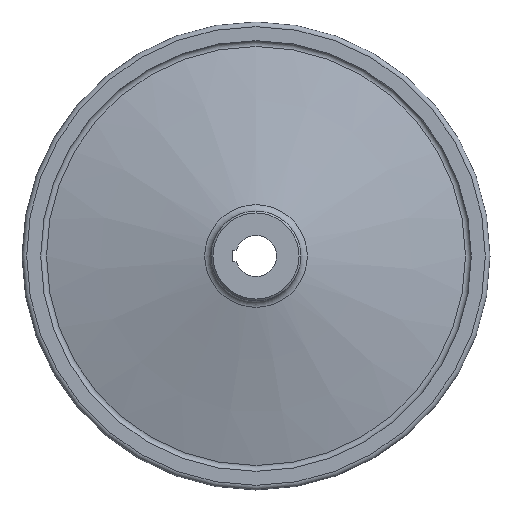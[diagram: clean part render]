
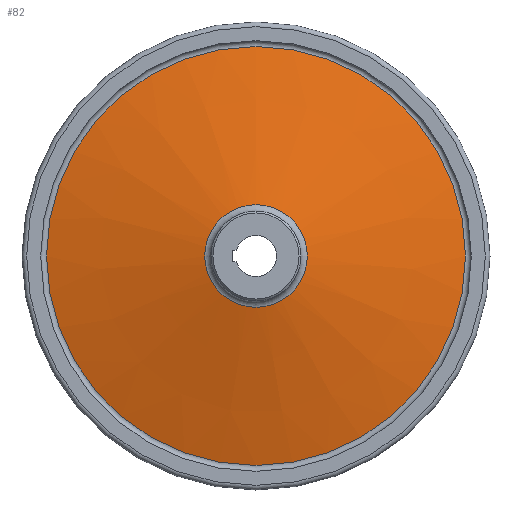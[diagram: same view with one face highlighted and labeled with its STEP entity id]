
A CAD part, left-side view. The second image highlights one B-rep face of the part: STEP entity #82.
In plain terms, the highlighted conical face has half-angle 76 degrees and reference radius 27.411 mm.
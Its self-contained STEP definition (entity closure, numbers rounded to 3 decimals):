
#82 = ADVANCED_FACE( '', ( #120, #121 ), #122, .T. );
#120 = FACE_OUTER_BOUND( '', #188, .T. );
#121 = FACE_BOUND( '', #189, .T. );
#122 = CONICAL_SURFACE( '', #190, 27.411, 1.326 );
#188 = EDGE_LOOP( '', ( #279 ) );
#189 = EDGE_LOOP( '', ( #280 ) );
#190 = AXIS2_PLACEMENT_3D( '', #281, #282, #283 );
#279 = ORIENTED_EDGE( '', *, *, #386, .T. );
#280 = ORIENTED_EDGE( '', *, *, #385, .F. );
#281 = CARTESIAN_POINT( '', ( 14.851, 0., 0. ) );
#282 = DIRECTION( '', ( 1., 0., 0. ) );
#283 = DIRECTION( '', ( 0., 0., -1. ) );
#385 = EDGE_CURVE( '', #429, #429, #430, .T. );
#386 = EDGE_CURVE( '', #431, #431, #432, .T. );
#429 = VERTEX_POINT( '', #495 );
#430 = CIRCLE( '', #496, 27.411 );
#431 = VERTEX_POINT( '', #497 );
#432 = CIRCLE( '', #498, 111.895 );
#495 = CARTESIAN_POINT( '', ( 14.851, 0., 27.411 ) );
#496 = AXIS2_PLACEMENT_3D( '', #556, #557, #558 );
#497 = CARTESIAN_POINT( '', ( 35.915, 0., 111.895 ) );
#498 = AXIS2_PLACEMENT_3D( '', #559, #560, #561 );
#556 = CARTESIAN_POINT( '', ( 14.851, 0., 0. ) );
#557 = DIRECTION( '', ( -1., 0., 0. ) );
#558 = DIRECTION( '', ( 0., 0., 1. ) );
#559 = CARTESIAN_POINT( '', ( 35.915, 0., 0. ) );
#560 = DIRECTION( '', ( -1., 0., 0. ) );
#561 = DIRECTION( '', ( 0., 0., 1. ) );
